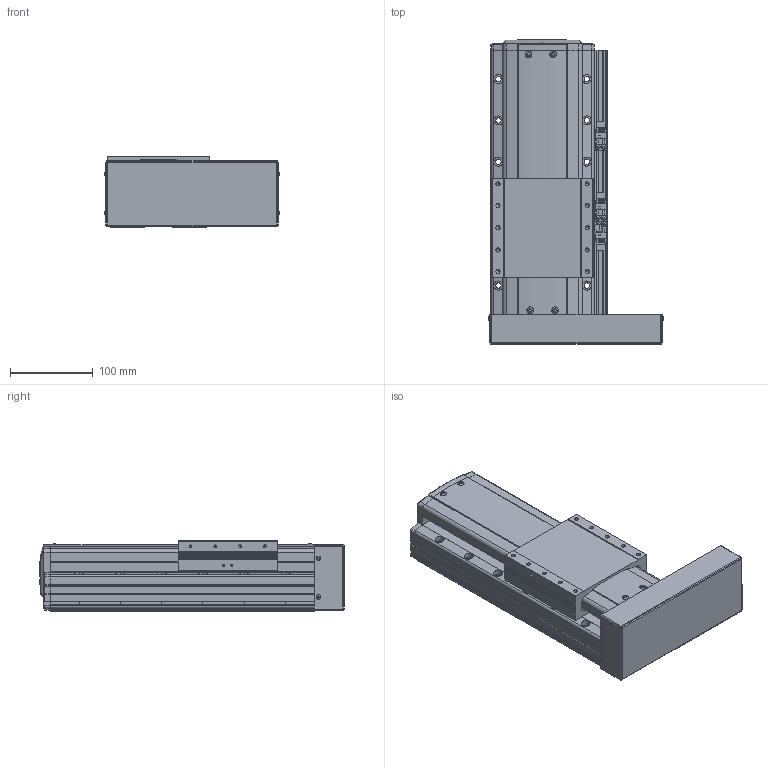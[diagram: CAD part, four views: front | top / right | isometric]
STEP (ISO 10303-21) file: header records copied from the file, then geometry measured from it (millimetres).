
FILE_DESCRIPTION(('STEP AP214'),'1');
FILE_NAME('Z:/Web/3D/PSA125/STP/PSA125-100 (3D)/PSA125ㅁㅁ-100PR+3SR.stp','2014-06-20T08:39:17',(' '),(' '),'Spatial InterOp 3D',' ',' ');
FILE_SCHEMA(('automotive_design'));
Length unit declared in the file: millimetre
Products named in the file (41): 스크루 : Round - M4.0 x 10.0; RRCV-PA120; SLIDE; BASE; FRCV-PA120-1(기준 뿔 제거); RR1500; 스크루 : Round - M4.0 x 6.0; 너트 : Square - M10.0 x 220.7419; BTCV - 60A; 스크루 : Round - M3.0 x 6.0; EE-SX674; SBK-SX674-352; M3.0 x 6.0; SRL-16x17-380L; SGD-PA95; 스크루 : Round - M3.0 x 8.0
Bounding box: 212.13 x 368.6 x 86 mm (x, y, z)
Volume: 3544635.9 mm3; surface area: 402514.1 mm2
Topology: 41 solids, 41 shells, 2373 faces, 6313 edges, 4061 vertices
Faces by surface type: plane 1401, cylinder 640, cone 212, sphere 64, bspline 31, torus 25
Entity records: 94870 total; most frequent: CARTESIAN_POINT 15430, DIRECTION 12607, ORIENTED_EDGE 12402, EDGE_CURVE 6201, LINE 4249, VECTOR 4249, AXIS2_PLACEMENT_3D 4179, VERTEX_POINT 4061
